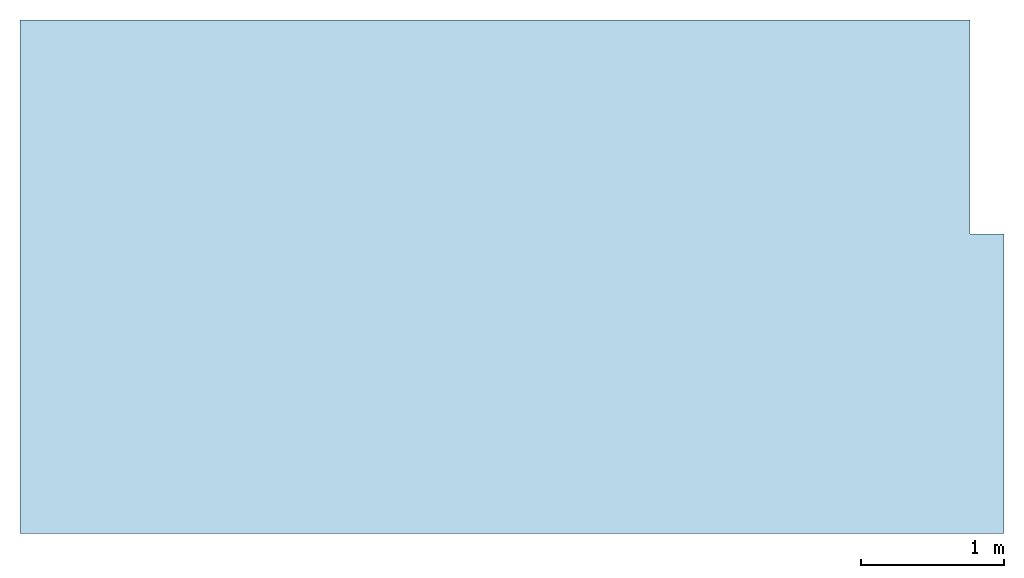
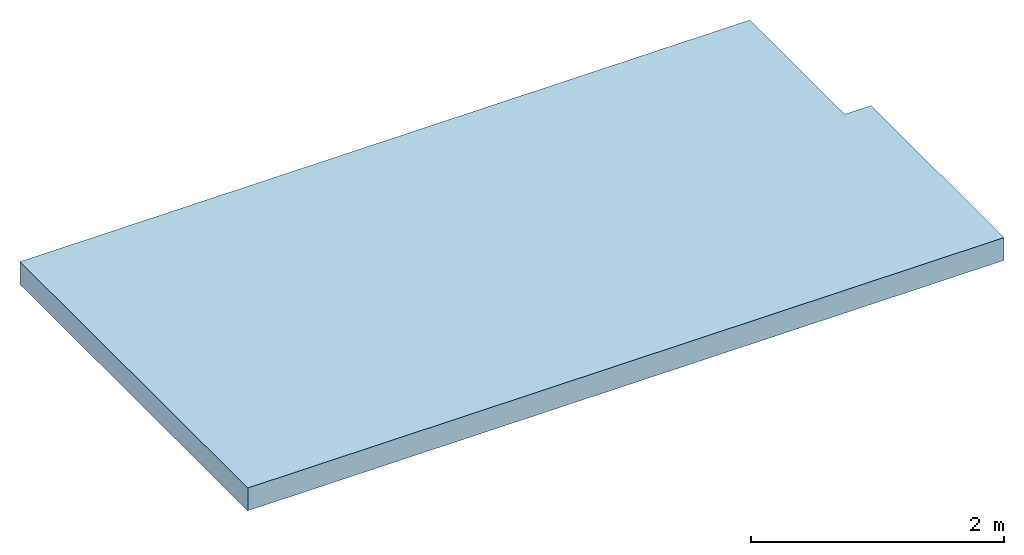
# One storey: 1 slab.
"""IFC2X3 building model written with IfcOpenShell, lengths in metres."""

from ifc_helpers import new_model, entity, si_unit, converted_unit, derived_unit, direction, frame, origin, place, context, subcontext, project, spatial, polyline, outline, extrude, material, layer, layer_set, layer_usage, type_object, element, save


model = new_model("IFC2X3")

# Units and contexts
model_context = context("Model", 3, precision=1e-05, world=origin(), true_north=direction((6.12303176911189e-17, 1.0)))
body_context = subcontext(model_context, "Body", "Model", "MODEL_VIEW")
ifc_project = project(units=[si_unit("LENGTHUNIT", "METRE"), si_unit("AREAUNIT", "SQUARE_METRE"), si_unit("VOLUMEUNIT", "CUBIC_METRE"), converted_unit("PLANEANGLEUNIT", "DEGREE", entity("IfcRatioMeasure", 0.0174532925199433), si_unit("PLANEANGLEUNIT", "RADIAN"), dimensions=[0, 0, 0, 0, 0, 0, 0]), si_unit("MASSUNIT", "GRAM", prefix="KILO"), derived_unit("MASSDENSITYUNIT", [(si_unit("MASSUNIT", "GRAM", prefix="KILO"), 1), (si_unit("LENGTHUNIT", "METRE"), -3)]), derived_unit("MOMENTOFINERTIAUNIT", [(si_unit("LENGTHUNIT", "METRE"), 4)]), si_unit("TIMEUNIT", "SECOND"), si_unit("FREQUENCYUNIT", "HERTZ"), si_unit("THERMODYNAMICTEMPERATUREUNIT", "DEGREE_CELSIUS"), derived_unit("THERMALTRANSMITTANCEUNIT", [(si_unit("MASSUNIT", "GRAM", prefix="KILO"), 1), (si_unit("THERMODYNAMICTEMPERATUREUNIT", "KELVIN"), -1), (si_unit("TIMEUNIT", "SECOND"), -3)]), derived_unit("VOLUMETRICFLOWRATEUNIT", [(si_unit("LENGTHUNIT", "METRE"), 3), (si_unit("TIMEUNIT", "SECOND"), -1)]), si_unit("ELECTRICCURRENTUNIT", "AMPERE"), si_unit("ELECTRICVOLTAGEUNIT", "VOLT"), si_unit("POWERUNIT", "WATT"), si_unit("FORCEUNIT", "NEWTON", prefix="KILO"), si_unit("ILLUMINANCEUNIT", "LUX"), si_unit("LUMINOUSFLUXUNIT", "LUMEN"), si_unit("LUMINOUSINTENSITYUNIT", "CANDELA"), derived_unit("USERDEFINED", [(si_unit("MASSUNIT", "GRAM", prefix="KILO"), -1), (si_unit("LENGTHUNIT", "METRE"), -2), (si_unit("TIMEUNIT", "SECOND"), 3), (si_unit("LUMINOUSFLUXUNIT", "LUMEN"), 1)]), derived_unit("LINEARVELOCITYUNIT", [(si_unit("LENGTHUNIT", "METRE"), 1), (si_unit("TIMEUNIT", "SECOND"), -1)]), si_unit("PRESSUREUNIT", "PASCAL"), derived_unit("USERDEFINED", [(si_unit("LENGTHUNIT", "METRE"), -2), (si_unit("MASSUNIT", "GRAM", prefix="KILO"), 1), (si_unit("TIMEUNIT", "SECOND"), -2)]), derived_unit("LINEARFORCEUNIT", [(si_unit("MASSUNIT", "GRAM", prefix="KILO"), 1), (si_unit("LENGTHUNIT", "METRE"), 1), (si_unit("TIMEUNIT", "SECOND"), -2), (si_unit("LENGTHUNIT", "METRE"), -1)]), derived_unit("PLANARFORCEUNIT", [(si_unit("MASSUNIT", "GRAM", prefix="KILO"), 1), (si_unit("LENGTHUNIT", "METRE"), 1), (si_unit("TIMEUNIT", "SECOND"), -2), (si_unit("LENGTHUNIT", "METRE"), -2)])], contexts=[model_context])

# Site, building, storey
site_placement = place(None, origin())
site = spatial("IfcSite", under=ifc_project, at=site_placement, Name="Surface", CompositionType="ELEMENT")
building_placement = place(site_placement, origin())
building = spatial("IfcBuilding", under=site, at=building_placement, CompositionType="ELEMENT")
storey_placement = place(building_placement, frame((0.0, 0.0, -0.169999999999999)))
storey = spatial("IfcBuildingStorey", under=building, at=storey_placement, Name="TERRASSE", CompositionType="ELEMENT", Elevation=-0.169999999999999)

# Slab
ifc_material_1 = material(Name="Surface de dalle analytique")
ifc_layer_1 = layer(ifc_material_1, 0.02)
ifc_material_2 = material(Name="Maçonnerie - Béton")
ifc_layer_2 = layer(ifc_material_2, 0.2)
ifc_layer_set = layer_set([ifc_layer_1, ifc_layer_2], Name="Sol:dalle béton 20 cm + 2 cm carrellage")
ifc_layer_usage = layer_usage(ifc_layer_set, "AXIS3", "POSITIVE", 0.0)
slab_type = type_object("IfcSlabType", Name="Sol:dalle béton 20 cm + 2 cm carrellage", PredefinedType="FLOOR", material=ifc_layer_set)
slab_placement = place(storey_placement, origin())
element("IfcSlab", 1, at=slab_placement, inside=storey, type_object=slab_type, material=ifc_layer_usage, Name="Sol:dalle béton 20 cm + 2 cm carrellage", ObjectType="Sol:dalle béton 20 cm + 2 cm carrellage", PredefinedType="FLOOR", context=body_context, shape_type="SweptSolid", body=[
    extrude(outline(polyline([(-1.89999999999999, -4.52), (1.70000000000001, -4.52), (1.7, 2.14), (0.199999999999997, 2.14), (0.199999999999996, 2.38), (-1.9, 2.38), (-1.89999999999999, -4.52)])), frame((-13.4882926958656, -1.31262022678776, 0.0), z_axis=(0.0, 0.0, -1.0), x_axis=(0.0, 1.0, 0.0)), (0.0, 0.0, 1.0), 0.22),
])

save(model, "model.ifc")
